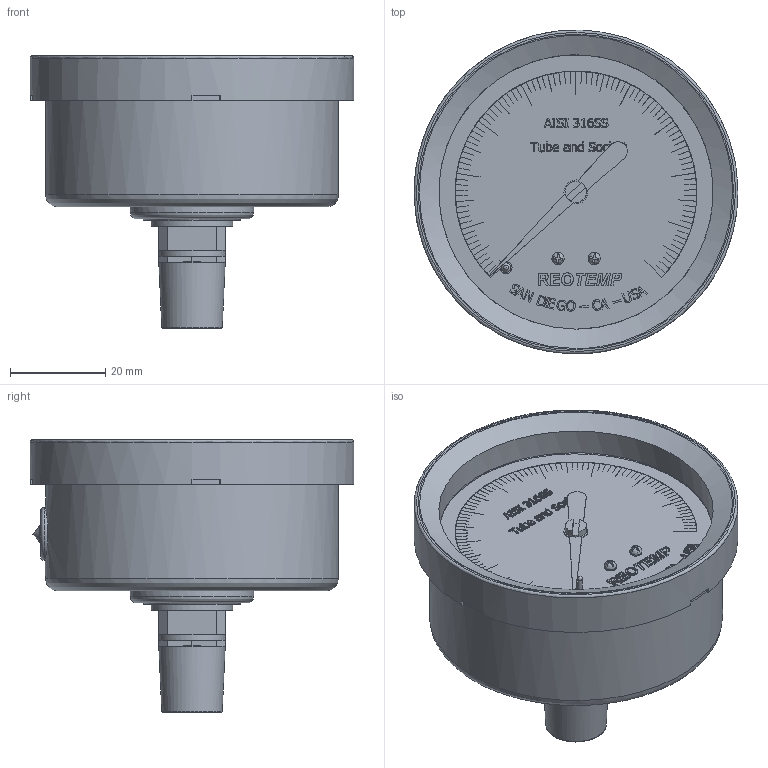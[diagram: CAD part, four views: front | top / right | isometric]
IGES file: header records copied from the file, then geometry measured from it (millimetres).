
Global section: file name: PR25-quarter-NPT-Back-Connect-IGS; native system: Autodesk Inventor 2014; preprocessor: unknown; author: Charles; date: 20151106.155203; units: inch
Bounding box: 68.07 x 68.07 x 57.27 mm (x, y, z)
Volume: 88388.3 mm3; surface area: 47782 mm2
Topology: 10 solids, 13 shells, 1329 faces, 3565 edges, 2364 vertices
Faces by surface type: bspline 1329
